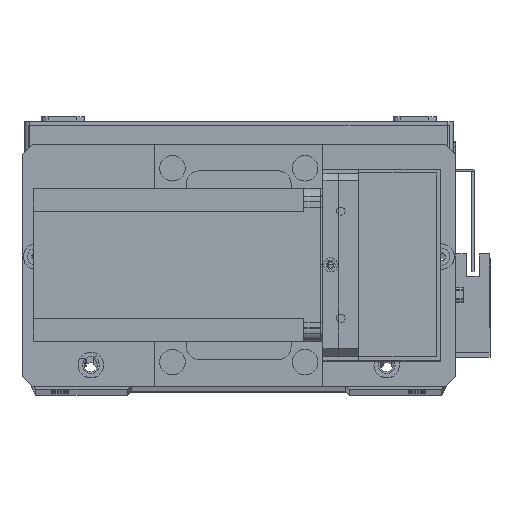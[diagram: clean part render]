
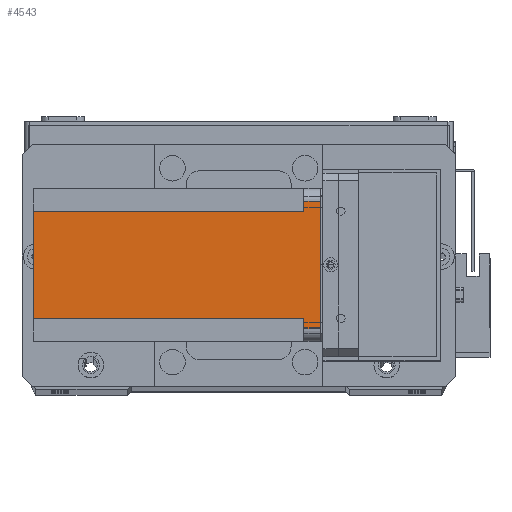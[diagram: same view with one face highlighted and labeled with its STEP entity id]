
A CAD part, top view. The second image highlights one B-rep face of the part: STEP entity #4543.
In plain terms, the highlighted planar face has unit normal (0, 0, 1) as drawn and (-1, 0, 0) by its records, which use the part's own axes.
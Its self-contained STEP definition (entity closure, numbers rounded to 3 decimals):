
#178 = EDGE_CURVE ( 'NONE', #9570, #14673, #20676, .T. ) ;
#228 = EDGE_CURVE ( 'NONE', #9570, #693, #20432, .T. ) ;
#233 = EDGE_CURVE ( 'NONE', #16189, #18210, #20210, .T. ) ;
#237 = EDGE_CURVE ( 'NONE', #17793, #18210, #20495, .T. ) ;
#282 = EDGE_CURVE ( 'NONE', #3031, #17793, #19952, .T. ) ;
#319 = EDGE_CURVE ( 'NONE', #3031, #15122, #19601, .T. ) ;
#365 = EDGE_CURVE ( 'NONE', #14673, #15122, #19538, .T. ) ;
#644 = DIRECTION ( 'NONE',  ( 0., 0., -1. ) ) ;
#693 = VERTEX_POINT ( 'NONE', #30006 ) ;
#952 = CARTESIAN_POINT ( 'NONE',  ( 0., 9., -112.5 ) ) ;
#1066 = CARTESIAN_POINT ( 'NONE',  ( 0., 0., -112.5 ) ) ;
#1115 = DIRECTION ( 'NONE',  ( 0., -1., 0. ) ) ;
#1544 = CARTESIAN_POINT ( 'NONE',  ( 0., 51., -112.5 ) ) ;
#1681 = DIRECTION ( 'NONE',  ( 0., 0., 1. ) ) ;
#2450 = DIRECTION ( 'NONE',  ( 0., 1., 0. ) ) ;
#2596 = DIRECTION ( 'NONE',  ( 0., 0., -1. ) ) ;
#2628 = CARTESIAN_POINT ( 'NONE',  ( 0., 60., -6.5 ) ) ;
#2682 = VECTOR ( 'NONE', #31264, 1000. ) ;
#2708 = CARTESIAN_POINT ( 'NONE',  ( 0., 55., -112.5 ) ) ;
#2784 = CARTESIAN_POINT ( 'NONE',  ( 0., 5., -112.5 ) ) ;
#3031 = VERTEX_POINT ( 'NONE', #15293 ) ;
#3036 = DIRECTION ( 'NONE',  ( 0., 0., 1. ) ) ;
#3143 = DIRECTION ( 'NONE',  ( 0., 1., 0. ) ) ;
#3152 = CARTESIAN_POINT ( 'NONE',  ( 0., 0., -6.5 ) ) ;
#4543 = ADVANCED_FACE ( 'NONE', ( #29686 ), #22353, .T. ) ;
#6024 = AXIS2_PLACEMENT_3D ( 'NONE', #22342, #22283, #22086 ) ;
#8616 = ORIENTED_EDGE ( 'NONE', *, *, #178, .F. ) ;
#8639 = ORIENTED_EDGE ( 'NONE', *, *, #228, .T. ) ;
#9241 = ORIENTED_EDGE ( 'NONE', *, *, #31173, .F. ) ;
#9570 = VERTEX_POINT ( 'NONE', #11936 ) ;
#9700 = ORIENTED_EDGE ( 'NONE', *, *, #233, .T. ) ;
#9716 = CARTESIAN_POINT ( 'NONE',  ( 0., 55., -6.5 ) ) ;
#9730 = ORIENTED_EDGE ( 'NONE', *, *, #237, .F. ) ;
#10118 = ORIENTED_EDGE ( 'NONE', *, *, #282, .F. ) ;
#10486 = ORIENTED_EDGE ( 'NONE', *, *, #319, .T. ) ;
#11077 = ORIENTED_EDGE ( 'NONE', *, *, #365, .F. ) ;
#11423 = CARTESIAN_POINT ( 'NONE',  ( 0., 55., 0. ) ) ;
#11936 = CARTESIAN_POINT ( 'NONE',  ( 0., 5., -6.5 ) ) ;
#14673 = VERTEX_POINT ( 'NONE', #15981 ) ;
#15122 = VERTEX_POINT ( 'NONE', #24665 ) ;
#15293 = CARTESIAN_POINT ( 'NONE',  ( 0., 51., -112.5 ) ) ;
#15981 = CARTESIAN_POINT ( 'NONE',  ( 0., 9., -6.5 ) ) ;
#16189 = VERTEX_POINT ( 'NONE', #11423 ) ;
#17793 = VERTEX_POINT ( 'NONE', #27722 ) ;
#18210 = VERTEX_POINT ( 'NONE', #9716 ) ;
#18552 = EDGE_LOOP ( 'NONE', ( #8616, #8639, #9241, #9700, #9730, #10118, #10486, #11077 ) ) ;
#19366 = VECTOR ( 'NONE', #644, 1000. ) ;
#19538 = LINE ( 'NONE', #952, #19366 ) ;
#19601 = LINE ( 'NONE', #1066, #19739 ) ;
#19739 = VECTOR ( 'NONE', #1115, 1000. ) ;
#19952 = LINE ( 'NONE', #1544, #20307 ) ;
#20174 = VECTOR ( 'NONE', #2596, 1000. ) ;
#20210 = LINE ( 'NONE', #2708, #20174 ) ;
#20285 = VECTOR ( 'NONE', #2450, 1000. ) ;
#20307 = VECTOR ( 'NONE', #1681, 1000. ) ;
#20369 = VECTOR ( 'NONE', #3036, 1000. ) ;
#20432 = LINE ( 'NONE', #2784, #20369 ) ;
#20495 = LINE ( 'NONE', #2628, #20285 ) ;
#20526 = VECTOR ( 'NONE', #3143, 1000. ) ;
#20676 = LINE ( 'NONE', #3152, #20526 ) ;
#22086 = DIRECTION ( 'NONE',  ( 0., -1., 0. ) ) ;
#22205 = LINE ( 'NONE', #28918, #2682 ) ;
#22283 = DIRECTION ( 'NONE',  ( -1., 0., 0. ) ) ;
#22342 = CARTESIAN_POINT ( 'NONE',  ( 0., 0., -112.5 ) ) ;
#22353 = PLANE ( 'NONE',  #6024 ) ;
#24665 = CARTESIAN_POINT ( 'NONE',  ( 0., 9., -112.5 ) ) ;
#27722 = CARTESIAN_POINT ( 'NONE',  ( 0., 51., -6.5 ) ) ;
#28918 = CARTESIAN_POINT ( 'NONE',  ( 0., 0., 0. ) ) ;
#29686 = FACE_OUTER_BOUND ( 'NONE', #18552, .T. ) ;
#30006 = CARTESIAN_POINT ( 'NONE',  ( 0., 5., 0. ) ) ;
#31173 = EDGE_CURVE ( 'NONE', #16189, #693, #22205, .T. ) ;
#31264 = DIRECTION ( 'NONE',  ( 0., -1., 0. ) ) ;
